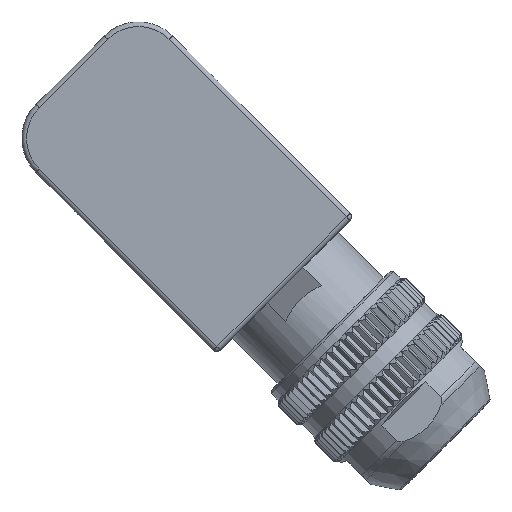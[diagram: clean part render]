
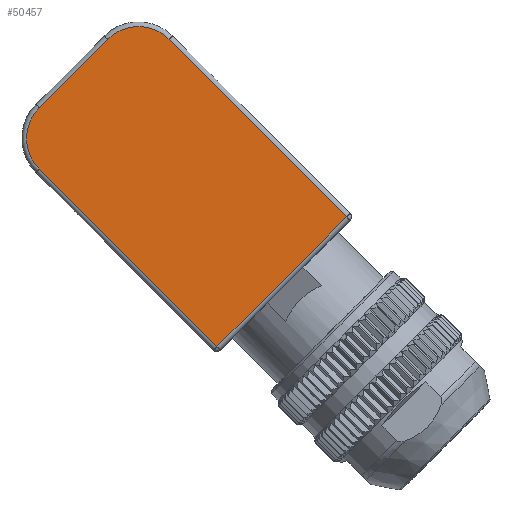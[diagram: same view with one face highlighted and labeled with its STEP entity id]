
A CAD part, left-side view. The second image highlights one B-rep face of the part: STEP entity #50457.
In plain terms, the highlighted planar face has unit normal (-1, 0, 0).
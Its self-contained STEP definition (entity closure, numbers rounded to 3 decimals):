
#360 = DIRECTION ( 'NONE',  ( -1., 0., 0. ) ) ;
#1361 = AXIS2_PLACEMENT_3D ( 'NONE', #47768, #9467, #1666 ) ;
#1666 = DIRECTION ( 'NONE',  ( 0., 0.707, 0.707 ) ) ;
#3616 = VERTEX_POINT ( 'NONE', #38881 ) ;
#4701 = CARTESIAN_POINT ( 'NONE',  ( -28., 30.595, 8.877 ) ) ;
#5421 = VECTOR ( 'NONE', #14579, 1000. ) ;
#6738 = CARTESIAN_POINT ( 'NONE',  ( -28., -1.578, -2.083 ) ) ;
#7567 = CARTESIAN_POINT ( 'NONE',  ( -28., 12.211, -15.872 ) ) ;
#7751 = DIRECTION ( 'NONE',  ( 0., -0.707, -0.707 ) ) ;
#8668 = DIRECTION ( 'NONE',  ( 0., 0.707, 0.707 ) ) ;
#9467 = DIRECTION ( 'NONE',  ( -1., 0., 0. ) ) ;
#10343 = LINE ( 'NONE', #42673, #49381 ) ;
#13695 = EDGE_CURVE ( 'NONE', #18980, #37826, #45334, .T. ) ;
#14040 = EDGE_CURVE ( 'NONE', #3616, #34707, #31010, .T. ) ;
#14269 = EDGE_CURVE ( 'NONE', #35006, #18980, #18243, .T. ) ;
#14579 = DIRECTION ( 'NONE',  ( 0., -0.707, 0.707 ) ) ;
#18243 = LINE ( 'NONE', #6738, #5421 ) ;
#18980 = VERTEX_POINT ( 'NONE', #30338 ) ;
#19094 = CIRCLE ( 'NONE', #48756, 4.5 ) ;
#20216 = FACE_OUTER_BOUND ( 'NONE', #38868, .T. ) ;
#20326 = CIRCLE ( 'NONE', #23884, 4.5 ) ;
#21898 = ORIENTED_EDGE ( 'NONE', *, *, #14040, .T. ) ;
#22545 = ORIENTED_EDGE ( 'NONE', *, *, #29268, .T. ) ;
#23854 = DIRECTION ( 'NONE',  ( 0., 0.707, 0.707 ) ) ;
#23858 = CARTESIAN_POINT ( 'NONE',  ( -28., 17.16, 15.948 ) ) ;
#23884 = AXIS2_PLACEMENT_3D ( 'NONE', #43321, #31718, #31209 ) ;
#26661 = CARTESIAN_POINT ( 'NONE',  ( -28., 30.595, 2.513 ) ) ;
#29268 = EDGE_CURVE ( 'NONE', #34707, #37447, #20326, .T. ) ;
#30041 = ORIENTED_EDGE ( 'NONE', *, *, #33043, .T. ) ;
#30338 = CARTESIAN_POINT ( 'NONE',  ( -28., -1.224, -2.437 ) ) ;
#31010 = LINE ( 'NONE', #4701, #45029 ) ;
#31209 = DIRECTION ( 'NONE',  ( 0., 0.707, 0.707 ) ) ;
#31718 = DIRECTION ( 'NONE',  ( -1., 0., 0. ) ) ;
#33043 = EDGE_CURVE ( 'NONE', #37826, #3616, #19094, .T. ) ;
#34707 = VERTEX_POINT ( 'NONE', #47796 ) ;
#35006 = VERTEX_POINT ( 'NONE', #7567 ) ;
#35612 = VECTOR ( 'NONE', #8668, 1000. ) ;
#35847 = DIRECTION ( 'NONE',  ( 0., 0.707, -0.707 ) ) ;
#37447 = VERTEX_POINT ( 'NONE', #26661 ) ;
#37509 = CARTESIAN_POINT ( 'NONE',  ( -28., 17.16, 15.948 ) ) ;
#37826 = VERTEX_POINT ( 'NONE', #37509 ) ;
#38815 = CARTESIAN_POINT ( 'NONE',  ( -28., 20.342, 12.766 ) ) ;
#38868 = EDGE_LOOP ( 'NONE', ( #22545, #40128, #46813, #44700, #30041, #21898 ) ) ;
#38881 = CARTESIAN_POINT ( 'NONE',  ( -28., 23.524, 15.948 ) ) ;
#40128 = ORIENTED_EDGE ( 'NONE', *, *, #47744, .T. ) ;
#42673 = CARTESIAN_POINT ( 'NONE',  ( -28., 11.857, -16.225 ) ) ;
#43321 = CARTESIAN_POINT ( 'NONE',  ( -28., 27.413, 5.695 ) ) ;
#44700 = ORIENTED_EDGE ( 'NONE', *, *, #13695, .T. ) ;
#45029 = VECTOR ( 'NONE', #35847, 1000. ) ;
#45334 = LINE ( 'NONE', #23858, #35612 ) ;
#46813 = ORIENTED_EDGE ( 'NONE', *, *, #14269, .T. ) ;
#47426 = PLANE ( 'NONE',  #1361 ) ;
#47744 = EDGE_CURVE ( 'NONE', #37447, #35006, #10343, .T. ) ;
#47768 = CARTESIAN_POINT ( 'NONE',  ( -28., 12.564, -2.083 ) ) ;
#47796 = CARTESIAN_POINT ( 'NONE',  ( -28., 30.595, 8.877 ) ) ;
#48756 = AXIS2_PLACEMENT_3D ( 'NONE', #38815, #360, #23854 ) ;
#49381 = VECTOR ( 'NONE', #7751, 1000. ) ;
#50457 = ADVANCED_FACE ( 'NONE', ( #20216 ), #47426, .T. ) ;
